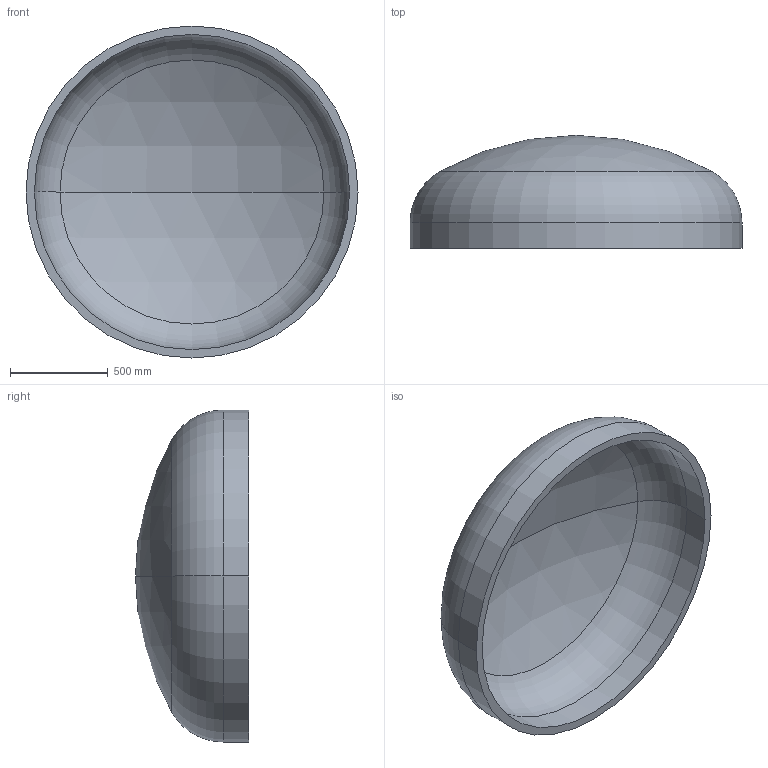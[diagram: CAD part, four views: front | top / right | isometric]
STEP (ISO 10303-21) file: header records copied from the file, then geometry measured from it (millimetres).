
FILE_DESCRIPTION (( 'STEP AP203' ), '1' );
FILE_NAME ('DIN 28013 Korbbogenform_-_Boden DIN 28013 - 1700 x 130 - I - s=43.step', '2016-07-01T11:50:22', ( '' ), ( '' ), 'SwSTEP 2.0', 'SolidWorks 2013', '' );
FILE_SCHEMA (( 'CONFIG_CONTROL_DESIGN' ));
Length unit declared in the file: millimetre
Products named in the file (1): DIN 28013 Korbbogenform_-_Boden DIN 28013 - 1700 x 130 - I - s=43
Bounding box: 1700 x 578.65 x 1700 mm (x, y, z)
Volume: 159686304.7 mm3; surface area: 7654981.9 mm2
Topology: 1 solids, 1 shells, 13 faces, 24 edges, 14 vertices
Faces by surface type: torus 4, cylinder 4, sphere 4, plane 1
Entity records: 407 total; most frequent: DIRECTION 72, CARTESIAN_POINT 52, ORIENTED_EDGE 48, AXIS2_PLACEMENT_3D 34, EDGE_CURVE 24, CIRCLE 20, EDGE_LOOP 14, VERTEX_POINT 14
